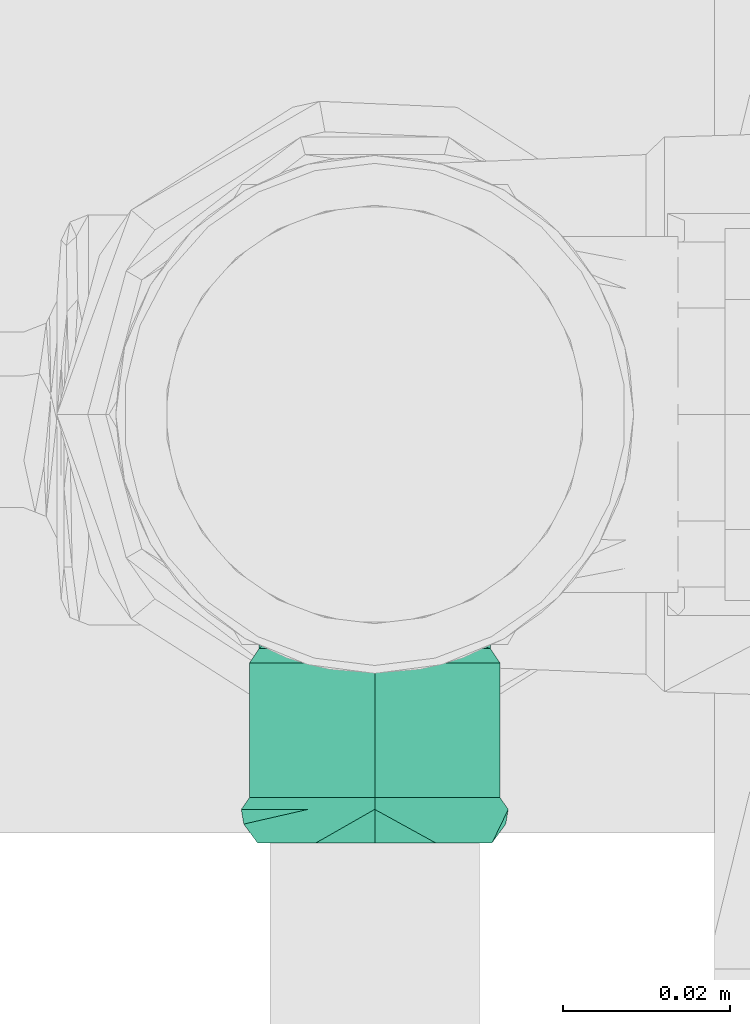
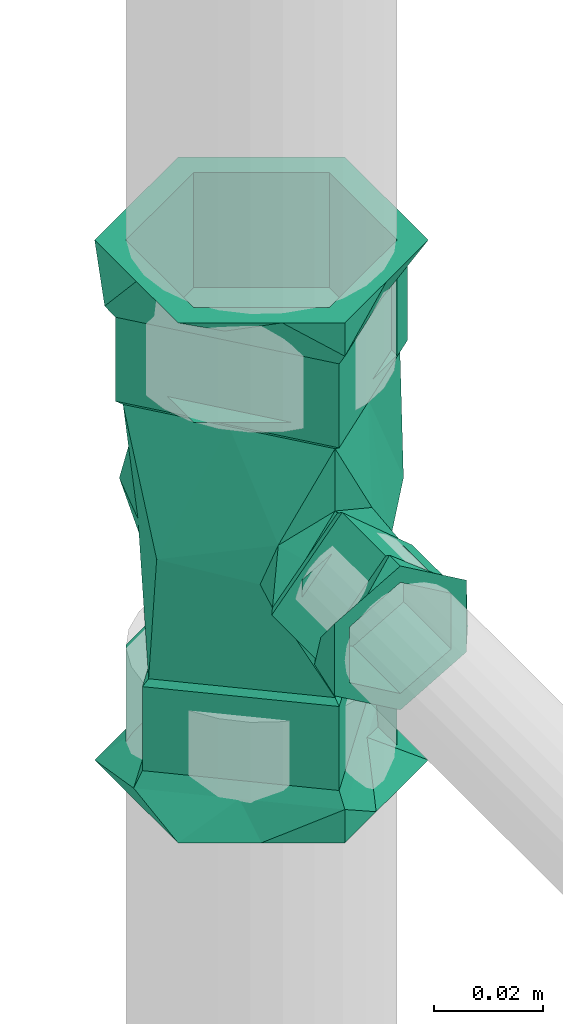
# One storey, part 81 of 589: 1 flow fitting.
"""IFC2X3 building model written with IfcOpenShell, lengths in millimetres."""

from ifc_helpers import new_model, entity, si_unit, converted_unit, derived_unit, direction, frame, origin, place, context, subcontext, project, spatial, faceted_brep, source, transform, mapped, material, type_object, type_shapes, element, save


model = new_model("IFC2X3")

# Units and contexts
model_context = context("Model", 3, precision=0.01, world=origin(), true_north=direction((6.123031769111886e-17, 1.0)))
body_context = subcontext(model_context, "Body", "Model", "MODEL_VIEW")
ifc_project = project(units=[si_unit("LENGTHUNIT", "METRE", prefix="MILLI"), si_unit("AREAUNIT", "SQUARE_METRE"), si_unit("VOLUMEUNIT", "CUBIC_METRE"), converted_unit("PLANEANGLEUNIT", "DEGREE", entity("IfcRatioMeasure", 0.017453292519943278), si_unit("PLANEANGLEUNIT", "RADIAN"), dimensions=[0, 0, 0, 0, 0, 0, 0]), si_unit("MASSUNIT", "GRAM", prefix="KILO"), derived_unit("MASSDENSITYUNIT", [(si_unit("MASSUNIT", "GRAM", prefix="KILO"), 1), (si_unit("LENGTHUNIT", "METRE"), -3)]), derived_unit("IONCONCENTRATIONUNIT", [(si_unit("MASSUNIT", "GRAM", prefix="KILO"), 1), (si_unit("LENGTHUNIT", "METRE"), -3)]), derived_unit("MOMENTOFINERTIAUNIT", [(si_unit("LENGTHUNIT", "METRE"), 4)]), si_unit("TIMEUNIT", "SECOND"), si_unit("FREQUENCYUNIT", "HERTZ"), si_unit("THERMODYNAMICTEMPERATUREUNIT", "DEGREE_CELSIUS"), derived_unit("THERMALTRANSMITTANCEUNIT", [(si_unit("MASSUNIT", "GRAM", prefix="KILO"), 1), (si_unit("THERMODYNAMICTEMPERATUREUNIT", "KELVIN"), -1), (si_unit("TIMEUNIT", "SECOND"), -3)]), derived_unit("THERMALCONDUCTANCEUNIT", [(si_unit("MASSUNIT", "GRAM", prefix="KILO"), 1), (si_unit("THERMODYNAMICTEMPERATUREUNIT", "KELVIN"), -1), (si_unit("TIMEUNIT", "SECOND"), -3), (si_unit("LENGTHUNIT", "METRE"), 1)]), derived_unit("VOLUMETRICFLOWRATEUNIT", [(si_unit("LENGTHUNIT", "METRE"), 3), (si_unit("TIMEUNIT", "SECOND"), -1)]), derived_unit("MASSFLOWRATEUNIT", [(si_unit("MASSUNIT", "GRAM", prefix="KILO"), 1), (si_unit("TIMEUNIT", "SECOND"), -1)]), derived_unit("ROTATIONALFREQUENCYUNIT", [(si_unit("TIMEUNIT", "SECOND"), -1)]), si_unit("ELECTRICCURRENTUNIT", "AMPERE"), si_unit("ELECTRICVOLTAGEUNIT", "VOLT"), si_unit("POWERUNIT", "WATT"), si_unit("FORCEUNIT", "NEWTON", prefix="KILO"), si_unit("ILLUMINANCEUNIT", "LUX"), si_unit("LUMINOUSFLUXUNIT", "LUMEN"), si_unit("LUMINOUSINTENSITYUNIT", "CANDELA"), derived_unit("USERDEFINED", [(si_unit("MASSUNIT", "GRAM", prefix="KILO"), -1), (si_unit("LENGTHUNIT", "METRE"), -2), (si_unit("TIMEUNIT", "SECOND"), 3), (si_unit("LUMINOUSFLUXUNIT", "LUMEN"), 1)]), derived_unit("USERDEFINED", [(si_unit("MASSUNIT", "GRAM", prefix="KILO"), 1), (si_unit("TIMEUNIT", "SECOND"), -3), (si_unit("LENGTHUNIT", "METRE"), 3), (si_unit("ELECTRICCURRENTUNIT", "AMPERE"), -2)]), derived_unit("SOUNDPOWERUNIT", [(si_unit("MASSUNIT", "GRAM", prefix="KILO"), 1), (si_unit("TIMEUNIT", "SECOND"), -3), (si_unit("LENGTHUNIT", "METRE"), 2)]), derived_unit("SOUNDPRESSUREUNIT", [(si_unit("MASSUNIT", "GRAM", prefix="KILO"), 1), (si_unit("LENGTHUNIT", "METRE"), -1), (si_unit("TIMEUNIT", "SECOND"), -2)]), derived_unit("LINEARVELOCITYUNIT", [(si_unit("LENGTHUNIT", "METRE"), 1), (si_unit("TIMEUNIT", "SECOND"), -1)]), si_unit("PRESSUREUNIT", "PASCAL"), derived_unit("USERDEFINED", [(si_unit("MASSUNIT", "GRAM", prefix="KILO"), 1), (si_unit("LENGTHUNIT", "METRE"), -2), (si_unit("TIMEUNIT", "SECOND"), -2)]), derived_unit("LINEARFORCEUNIT", [(si_unit("MASSUNIT", "GRAM", prefix="KILO"), 1), (si_unit("TIMEUNIT", "SECOND"), -2)]), derived_unit("PLANARFORCEUNIT", [(si_unit("MASSUNIT", "GRAM", prefix="KILO"), 1), (si_unit("LENGTHUNIT", "METRE"), -1), (si_unit("TIMEUNIT", "SECOND"), -2)]), derived_unit("SPECIFICHEATCAPACITYUNIT", [(si_unit("THERMODYNAMICTEMPERATUREUNIT", "KELVIN"), -1), (si_unit("LENGTHUNIT", "METRE"), 2), (si_unit("TIMEUNIT", "SECOND"), -2)]), derived_unit("HEATINGVALUEUNIT", [(si_unit("LENGTHUNIT", "METRE"), 2), (si_unit("TIMEUNIT", "SECOND"), -2)]), derived_unit("VAPORPERMEABILITYUNIT", [(si_unit("LENGTHUNIT", "METRE"), -1), (si_unit("TIMEUNIT", "SECOND"), 1)]), derived_unit("DYNAMICVISCOSITYUNIT", [(si_unit("MASSUNIT", "GRAM", prefix="KILO"), 1), (si_unit("TIMEUNIT", "SECOND"), -1), (si_unit("LENGTHUNIT", "METRE"), -1)]), derived_unit("THERMALEXPANSIONCOEFFICIENTUNIT", [(si_unit("THERMODYNAMICTEMPERATUREUNIT", "KELVIN"), -1)]), derived_unit("MODULUSOFELASTICITYUNIT", [(si_unit("MASSUNIT", "GRAM", prefix="KILO"), 1), (si_unit("LENGTHUNIT", "METRE"), -1), (si_unit("TIMEUNIT", "SECOND"), -2)]), derived_unit("ISOTHERMALMOISTURECAPACITYUNIT", [(si_unit("LENGTHUNIT", "METRE"), 3), (si_unit("MASSUNIT", "GRAM", prefix="KILO"), -1)]), derived_unit("MOISTUREDIFFUSIVITYUNIT", [(si_unit("TIMEUNIT", "SECOND"), -1), (si_unit("LENGTHUNIT", "METRE"), 2)])], contexts=[model_context])

# Site, building, storey
site_placement = place(None, origin())
site = spatial("IfcSite", under=ifc_project, at=site_placement, Name="Default", CompositionType="ELEMENT")
building_placement = place(site_placement, origin())
building = spatial("IfcBuilding", under=site, at=building_placement, CompositionType="ELEMENT")
storey_placement = place(building_placement, frame((0.0, 0.0, 100.0)))
storey = spatial("IfcBuildingStorey", under=building, at=storey_placement, Name="TÉRREO", CompositionType="ELEMENT", Elevation=100.0)

# Flow fitting
ifc_material = material(Name="PVC Marrom")
pipe_fitting_type = type_object("IfcPipeFittingType", Name="PVC Marrom Soldável_Tê e Tê de Reducão_Rodrigo MEP:Tê", PredefinedType="NOTDEFINED", material=ifc_material)
shared_shape = source(origin(), body_context, "Body", "Brep", [
    faceted_brep([(8.099999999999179, -51.19999999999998, -14.029611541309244), (12.500000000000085, -51.19999999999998, 0.0), (6.249999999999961, -51.199999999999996, -10.82531754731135), (12.006116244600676, -51.19999999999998, -7.26401974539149), (-6.250000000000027, -51.20000000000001, -10.825317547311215), (0.0, -51.2, -14.02961154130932), (16.20000000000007, -51.199999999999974, 0.0), (6.250000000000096, -51.199999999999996, 10.825317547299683), (12.15000000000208, -51.19999999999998, 7.014805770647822), (8.10000000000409, -51.19999999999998, 14.029611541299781), (-6.249999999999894, -51.20000000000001, 10.825317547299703), (0.0, -51.2, 14.02961154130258), (-8.09999999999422, -51.20000000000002, 14.029611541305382), (-12.00611625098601, -51.20000000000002, 7.2640197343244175), (-16.199999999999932, -51.200000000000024, 0.0), (-12.499999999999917, -51.20000000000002, 0.0), (-12.149999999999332, -51.20000000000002, -7.014805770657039), (-8.099999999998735, -51.20000000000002, -14.0296115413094), (-9.505660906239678, -47.19999999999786, 7.977099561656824), (-2.81132181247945, -47.19999999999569, 15.95419912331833), (4.194176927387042, -48.95626714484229, 15.647647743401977), (-16.199999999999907, -47.200000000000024, 0.0), (16.200000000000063, -47.199999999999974, 0.0), (6.694339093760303, -47.19999999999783, 7.977099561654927), (10.200288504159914, -47.19999999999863, 5.034925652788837), (1.941508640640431, -47.1999999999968, 11.965649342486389), (9.50766188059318, -47.19999999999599, -7.976746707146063), (2.8153237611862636, -47.19999999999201, -15.953493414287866), (-4.191233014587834, -48.95635467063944, -15.648436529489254), (-6.692338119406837, -47.199999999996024, -7.97674670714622), (-10.19988795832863, -47.199999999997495, -5.033979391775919), (-1.938507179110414, -47.199999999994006, -11.965120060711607), (-6.250000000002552, -47.2, -10.825317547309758), (-9.37499999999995, -47.20000000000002, -5.412658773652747), (-12.499999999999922, -47.20000000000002, 0.0), (-8.816048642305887, -45.80000000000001, -6.380790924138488), (-6.249999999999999, -45.80000000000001, -10.82531754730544), (-6.249999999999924, -33.7, -10.825317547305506), (-12.499999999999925, -45.80000000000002, 0.0), (-12.499999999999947, -33.70000000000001, 0.0), (0.0, -47.199999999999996, -10.82531754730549), (6.250000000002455, -47.19999999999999, -10.825317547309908), (6.249999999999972, -45.8, -10.825317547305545), (0.0, -45.800000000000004, -10.825317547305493), (6.250000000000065, -33.699999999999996, -10.825317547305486), (12.50000000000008, -47.19999999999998, 0.0), (8.816048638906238, -47.19999999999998, -6.380790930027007), (9.375000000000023, -45.8, -5.4126587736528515), (12.500000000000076, -45.799999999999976, 0.0), (12.500000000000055, -33.69999999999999, 0.0), (6.249999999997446, -47.19999999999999, 10.825317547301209), (9.37500000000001, -47.19999999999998, 5.4126587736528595), (8.81604864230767, -45.8, 6.380790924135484), (6.249999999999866, -45.8, 10.825317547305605), (6.2499999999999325, -33.699999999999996, 10.825317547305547), (0.0, -47.199999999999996, 10.82531754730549), (-6.2499999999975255, -47.2, 10.82531754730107), (-6.250000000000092, -45.80000000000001, 10.825317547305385), (0.0, -45.800000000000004, 10.825317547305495), (-6.250000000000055, -33.7, 10.825317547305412), (-8.816048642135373, -47.20000000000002, 6.380790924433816), (-9.375000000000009, -45.80000000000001, 5.412658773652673), (-9.570641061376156, -45.79999999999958, -4.724127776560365), (2.6377834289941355, -45.799999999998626, -14.96937201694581), (15.200000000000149, -45.799999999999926, 0.0), (-15.199999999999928, -45.800000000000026, 0.0), (-9.79862070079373, -45.79999999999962, -4.5328084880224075), (8.918891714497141, -45.79999999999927, -7.484686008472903), (-3.941282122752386, -45.799999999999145, -9.44825555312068), (-4.397241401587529, -45.79999999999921, -9.065616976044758), (10.739615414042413, -45.80000000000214, 3.7421774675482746), (6.279230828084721, -45.80000000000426, 7.484354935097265), (1.8188462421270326, -45.80000000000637, 11.226532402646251), (-2.641538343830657, -45.80000000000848, 14.96870987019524), (-6.443631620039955, -45.80000000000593, 10.436910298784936), (-8.920769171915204, -45.800000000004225, 7.484354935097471), (-10.245724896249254, -45.80000000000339, 5.9051107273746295), (-8.918891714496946, -29.700000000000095, 7.4846860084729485), (9.798620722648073, -29.70000000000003, 4.532808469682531), (6.281108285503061, -29.700000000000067, 7.484686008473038), (4.3972414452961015, -29.70000000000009, 9.065616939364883), (-15.199999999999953, -29.700000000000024, 0.0), (-2.637783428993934, -29.70000000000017, 14.96937201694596), (15.200000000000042, -29.699999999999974, 0.0), (8.920769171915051, -29.699999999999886, -7.484354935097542), (2.6415383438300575, -29.699999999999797, -14.968709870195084), (-6.279230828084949, -29.699999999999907, -7.484354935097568), (-8.651615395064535, -28.0, -4.521903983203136), (-5.801761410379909, -28.0, -6.91348643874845), (-3.263230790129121, -28.0, -9.043807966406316), (-14.039999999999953, -28.0, 0.0), (2.436477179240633, -28.0, -13.826972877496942), (8.238238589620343, -28.0, -6.913486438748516), (14.040000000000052, -28.0, 0.0), (5.800025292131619, -28.0, 6.913180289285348), (-2.439949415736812, -28.0, 13.826360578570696), (-9.297801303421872, -28.0, 5.652333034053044), (-8.239974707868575, -28.0, 6.913180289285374), (-13.993250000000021, -27.149999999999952, 0.0), (-8.698026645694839, -24.90789224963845, -10.803675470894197), (0.0, -23.389258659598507, -13.786409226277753), (13.993249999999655, -27.149999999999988, 0.0), (10.886120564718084, -25.729354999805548, -8.667340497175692), (8.698026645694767, -24.907892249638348, 10.803675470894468), (0.0, -23.389258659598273, 13.786409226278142), (-10.886120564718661, -25.729354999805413, 8.667340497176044), (-32.59999999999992, -25.0, 0.0), (-32.59999999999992, -19.790106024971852, 9.023801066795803), (-32.59999999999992, -12.500000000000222, 21.650635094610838), (-32.59999999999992, 0.0, 21.65063509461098), (-32.59999999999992, 12.499999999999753, 21.65063509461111), (-32.59999999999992, 18.749999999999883, 10.825317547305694), (-32.59999999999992, 25.0, 0.0), (-32.59999999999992, 19.790105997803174, -9.023801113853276), (-32.59999999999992, 12.500000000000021, -21.65063509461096), (-32.59999999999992, 0.0, -21.65063509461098), (-32.59999999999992, -12.49999999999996, -21.650635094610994), (-32.59999999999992, -18.749999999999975, -10.825317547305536), (-48.0, -12.500000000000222, 21.650635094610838), (-48.0, -18.750000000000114, 10.825317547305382), (-58.50000000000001, -18.75000000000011, 10.82531754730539), (-58.50000000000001, -12.500000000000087, 21.650635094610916), (-48.0, -19.790106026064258, 9.02380106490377), (-48.0, -25.0, 0.0), (-58.50000000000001, -25.0, 0.0), (32.60000000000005, -25.0, 0.0), (32.60000000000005, -18.74999999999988, 10.825317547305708), (32.60000000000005, -12.499999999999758, 21.65063509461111), (58.5, -12.499999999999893, 21.650635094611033), (58.500000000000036, -19.97114481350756, 8.71023268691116), (58.5, -25.0, 0.0), (-48.0, 0.0, 21.650635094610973), (-48.0, 12.499999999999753, 21.65063509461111), (-58.50000000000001, 0.0, 21.650635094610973), (-58.50000000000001, 12.499999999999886, 21.650635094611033), (32.60000000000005, 0.0, 21.650635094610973), (32.60000000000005, 12.500000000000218, 21.650635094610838), (58.5, 12.500000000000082, 21.650635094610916), (58.5, 0.0, 21.650635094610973), (-48.0, 19.790106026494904, 9.023801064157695), (-48.0, 25.0, 0.0), (-48.0, 18.749999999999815, 10.825317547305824), (-58.49999999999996, 19.79010602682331, 9.023801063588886), (-58.50000000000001, 25.0, 0.0), (32.60000000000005, 19.97114481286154, 8.71023268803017), (32.60000000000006, 25.0, 0.0), (58.5, 25.0, 0.0), (58.5, 18.75000000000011, 10.825317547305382), (-48.0, 12.49999999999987, -21.650635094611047), (-48.0, 18.749999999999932, -10.825317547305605), (-58.50000000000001, 18.749999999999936, -10.825317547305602), (-58.50000000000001, 12.499999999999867, -21.650635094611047), (-48.0, 19.790106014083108, -9.023801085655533), (32.60000000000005, 18.749999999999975, -10.82531754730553), (32.60000000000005, 12.499999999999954, -21.650635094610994), (58.5, 12.5000000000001, -21.650635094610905), (58.500000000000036, 19.97114481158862, -8.710232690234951), (-48.0, 0.0, -21.65063509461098), (-48.0, -12.50000000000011, -21.650635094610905), (-58.50000000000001, 0.0, -21.65063509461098), (-58.50000000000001, -12.500000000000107, -21.650635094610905), (32.60000000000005, 0.0, -21.65063509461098), (32.60000000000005, -12.500000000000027, -21.65063509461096), (58.5, -12.499999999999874, -21.650635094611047), (58.5, 0.0, -21.65063509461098), (-48.0, -19.790106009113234, -9.02380109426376), (-48.0, -18.75000000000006, -10.825317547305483), (-58.49999999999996, -19.79010602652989, -9.023801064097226), (32.60000000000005, -19.971144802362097, -8.710232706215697), (58.5, -18.749999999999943, -10.825317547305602), (-28.0, 15.934137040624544, -13.368436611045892), (0.0, 27.15, 0.0), (0.0, 19.249777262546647, -19.145980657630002), (0.0, 6.194218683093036, -22.707339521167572), (-28.0, 20.511742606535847, -7.912286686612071), (-28.0, 27.15, 0.0), (0.0, -6.861339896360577, -26.268698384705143), (-28.0, 4.718274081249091, -26.73687322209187), (-28.0, -27.15, 0.0), (-28.0, -19.18293147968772, -6.684218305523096), (-28.0, -11.215862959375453, -13.368436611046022), (-28.0, -3.2487944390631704, -20.052654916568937), (-28.0, 10.326205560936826, -20.052654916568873), (-28.0, -15.930783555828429, 13.369027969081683), (0.0, -6.86133989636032, 26.268698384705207), (-28.0, -4.711567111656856, 26.738055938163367), (-28.0, -10.32117533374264, 20.053541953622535), (0.0, 19.24977726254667, 19.145980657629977), (-28.0, 19.60719441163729, 6.329881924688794), (-28.0, 11.219216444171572, 13.369027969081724), (0.0, 6.194218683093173, 22.707339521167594), (-28.0, 3.2538246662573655, 20.05354195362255), (-28.0, -20.510950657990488, 7.911215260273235), (-29.099999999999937, 16.81093734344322, -14.107648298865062), (-29.099999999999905, 10.891406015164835, -21.16147244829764), (-29.099999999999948, -12.730929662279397, -13.359198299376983), (-29.099999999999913, -3.8795274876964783, -20.787247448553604), (-29.099999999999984, -20.690464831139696, -6.679599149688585), (-29.099999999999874, 4.97187468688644, -28.215296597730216), (-29.1, 28.650000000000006, 0.0), (-29.099999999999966, 22.730468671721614, -7.053824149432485), (-29.09999999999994, -11.83906265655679, -14.107648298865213), (-29.100000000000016, -28.649999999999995, 0.0), (-29.100000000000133, -9.809464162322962, 22.456453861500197), (-29.100000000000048, -21.64498805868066, 8.349429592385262), (-29.10000000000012, 3.4282858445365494, 21.160536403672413), (-29.10000000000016, -4.978952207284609, 28.21404853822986), (-29.100000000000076, 11.835523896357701, 14.107024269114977), (-29.10000000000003, 20.242761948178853, 7.053512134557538), (-29.100000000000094, -14.639976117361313, 16.698859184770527), (-29.10000000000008, -16.814476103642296, 14.107024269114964), (-48.0, -4.978952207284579, 28.214048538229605), (-48.0, 28.650000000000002, 0.0), (-48.0, 12.939627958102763, 13.18070205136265), (-48.0, 11.835523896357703, 14.107024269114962), (-48.0, -16.81447610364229, 14.107024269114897), (-48.0, -28.650000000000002, 0.0), (-48.0, 4.971874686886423, -28.215296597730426), (-48.0, -12.94067667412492, -13.183179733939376), (-48.0, -11.839062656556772, -14.107648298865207), (-48.0, 16.81093734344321, -14.107648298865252), (-51.0, 16.175349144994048, -17.370576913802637), (-51.0, 18.04585747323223, -15.141239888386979), (-51.0, 30.75, 0.0), (-51.0, -12.704142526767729, -15.141239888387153), (-51.0, 5.341714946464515, -30.282479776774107), (-51.0, -30.74999999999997, 0.0), (-51.0, -5.3380546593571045, 30.283125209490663), (-51.0, -18.044027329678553, 15.141562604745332), (-51.0, 4.425812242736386, 22.08982117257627), (-51.0, 14.189679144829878, 13.896517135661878), (-51.0, 12.705972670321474, 15.141562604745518), (-58.50000000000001, -15.375000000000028, -26.63028116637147), (-58.500000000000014, -24.971948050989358, -10.007879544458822), (-58.50000000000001, 0.0, -26.6302811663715), (-58.50000000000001, -30.75, 0.0), (-58.50000000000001, -23.06249999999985, 13.315140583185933), (-58.50000000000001, -15.374999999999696, 26.630281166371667), (-58.50000000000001, 0.0, 26.6302811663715), (-58.50000000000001, 15.375000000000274, 26.63028116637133), (-58.500000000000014, 24.97194806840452, 10.007879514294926), (-58.50000000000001, 30.75, 0.0), (-58.50000000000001, 23.062499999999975, -13.315140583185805), (-58.50000000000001, 15.374999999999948, -26.630281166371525), (51.0, 30.749999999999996, 0.0), (58.5, 23.06249999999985, 13.315140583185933), (58.5, 30.75, 0.0), (51.0, -30.749999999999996, 0.0), (58.5, -30.75, 0.0), (58.5, -24.97194806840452, 10.007879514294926), (58.5, -23.062499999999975, -13.315140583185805), (58.5, 24.971948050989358, -10.007879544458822), (28.0, -15.934137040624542, -13.36843661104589), (28.0, -27.15, 0.0), (28.0, -4.718274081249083, -26.736873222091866), (28.0, -10.326205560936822, -20.05265491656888), (28.0, 27.15, 0.0), (28.0, 19.182931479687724, -6.6842183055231), (28.0, 11.215862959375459, -13.368436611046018), (28.0, 3.248794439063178, -20.052654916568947), (28.0, -20.511742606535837, -7.912286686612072), (28.0, 15.930783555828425, 13.369027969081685), (28.0, 20.51095065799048, 7.9112152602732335), (28.0, 4.711567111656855, 26.73805593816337), (28.0, -19.607194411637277, 6.329881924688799), (28.0, -11.21921644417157, 13.36902796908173), (28.0, -3.2538246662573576, 20.05354195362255), (28.0, 10.321175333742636, 20.053541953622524), (29.099999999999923, -16.81093734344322, -14.107648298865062), (29.09999999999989, -10.891406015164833, -21.16147244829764), (29.099999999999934, 12.730929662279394, -13.359198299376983), (29.09999999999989, 3.879527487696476, -20.787247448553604), (29.099999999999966, 20.690464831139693, -6.679599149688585), (29.099999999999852, -4.971874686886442, -28.215296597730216), (29.1, -28.650000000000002, 0.0), (29.099999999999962, -22.73046867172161, -7.053824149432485), (29.099999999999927, 11.83906265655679, -14.107648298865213), (29.1, 28.64999999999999, 0.0), (29.10000000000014, 9.809464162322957, 22.45645386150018), (29.10000000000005, 21.644988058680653, 8.349429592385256), (29.100000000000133, -3.4282858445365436, 21.160536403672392), (29.100000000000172, 4.978952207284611, 28.214048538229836), (29.100000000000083, -11.83552389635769, 14.107024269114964), (29.100000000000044, -20.242761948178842, 7.053512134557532), (29.1000000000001, 14.639976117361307, 16.69885918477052), (29.10000000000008, 16.814476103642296, 14.107024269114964), (48.0, 4.978952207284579, 28.214048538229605), (48.0, -28.650000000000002, 0.0), (48.0, -12.939627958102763, 13.18070205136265), (48.0, -11.835523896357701, 14.107024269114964), (48.0, 16.81447610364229, 14.107024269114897), (48.0, 28.650000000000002, 0.0), (48.0, -4.971874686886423, -28.215296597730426), (48.0, 12.94067667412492, -13.183179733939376), (48.0, 11.83906265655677, -14.107648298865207), (48.0, -16.81093734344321, -14.107648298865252), (51.0, -16.174511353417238, -17.369443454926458), (51.0, -18.044027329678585, -15.141562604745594), (51.0, 12.70597267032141, -15.141562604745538), (51.0, -5.33805465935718, -30.283125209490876), (51.0, 5.341714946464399, 30.28247977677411), (51.0, 18.045857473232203, 15.141239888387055), (51.0, -4.423715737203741, 22.088869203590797), (51.0, -14.189146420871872, 13.895258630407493), (51.0, -12.70414252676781, 15.141239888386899), (58.5, 15.375000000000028, -26.63028116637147), (58.5, 0.0, -26.6302811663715), (58.5, 15.374999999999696, 26.630281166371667), (58.5, 0.0, 26.6302811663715), (58.5, -15.375000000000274, 26.63028116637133), (58.5, -15.374999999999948, -26.630281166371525)], [[[0, 1, 2]], [[1, 0, 3]], [[0, 2, 4]], [[4, 5, 0]], [[1, 3, 6]], [[7, 1, 6]], [[7, 6, 8]], [[7, 8, 9]], [[7, 9, 10]], [[10, 9, 11]], [[10, 11, 12]], [[10, 12, 13]], [[10, 13, 14]], [[14, 15, 10]], [[15, 14, 16]], [[15, 16, 17]], [[17, 4, 15]], [[4, 17, 5]], [[18, 12, 19]], [[12, 20, 19]], [[18, 21, 13]], [[21, 14, 13]], [[22, 8, 6]], [[20, 8, 23]], [[8, 22, 24, 23]], [[20, 23, 25, 19]], [[20, 12, 11, 9]], [[8, 20, 9]], [[12, 18, 13]], [[26, 0, 27]], [[0, 28, 27]], [[26, 22, 3]], [[22, 6, 3]], [[21, 16, 14]], [[28, 16, 29]], [[16, 21, 30, 29]], [[28, 29, 31, 27]], [[28, 0, 5, 17]], [[16, 28, 17]], [[0, 26, 3]], [[4, 32, 33]], [[4, 33, 34]], [[34, 15, 4]], [[33, 32, 35]], [[36, 35, 32]], [[37, 35, 36]], [[37, 38, 35]], [[38, 37, 39]], [[38, 34, 33]], [[33, 35, 38]], [[4, 2, 32]], [[2, 40, 32]], [[2, 41, 40]], [[42, 40, 41]], [[43, 40, 42]], [[44, 43, 42]], [[44, 36, 43]], [[44, 37, 36]], [[43, 36, 32]], [[32, 40, 43]], [[1, 45, 46]], [[1, 46, 41]], [[41, 2, 1]], [[47, 46, 45]], [[45, 48, 47]], [[49, 47, 48]], [[49, 42, 47]], [[42, 49, 44]], [[41, 46, 42]], [[47, 42, 46]], [[7, 50, 51]], [[7, 51, 45]], [[45, 1, 7]], [[51, 50, 52]], [[53, 52, 50]], [[54, 52, 53]], [[54, 48, 52]], [[48, 54, 49]], [[48, 45, 51]], [[51, 52, 48]], [[7, 10, 50]], [[10, 55, 50]], [[10, 56, 55]], [[57, 55, 56]], [[58, 55, 57]], [[59, 58, 57]], [[59, 53, 58]], [[59, 54, 53]], [[58, 53, 50]], [[50, 55, 58]], [[15, 34, 60]], [[15, 60, 56]], [[56, 10, 15]], [[61, 60, 34]], [[34, 38, 61]], [[39, 61, 38]], [[39, 57, 61]], [[57, 39, 59]], [[56, 60, 57]], [[61, 57, 60]], [[30, 62, 29]], [[31, 63, 27]], [[22, 26, 64]], [[30, 65, 66, 62]], [[27, 63, 67]], [[67, 26, 27]], [[21, 65, 30]], [[63, 31, 68]], [[64, 26, 67]], [[29, 62, 69, 68]], [[31, 29, 68]], [[22, 64, 70]], [[25, 71, 72]], [[72, 19, 25]], [[71, 25, 23, 24]], [[19, 73, 74]], [[18, 74, 75, 76]], [[24, 70, 71]], [[76, 21, 18]], [[76, 65, 21]], [[22, 70, 24]], [[72, 73, 19]], [[19, 74, 18]], [[77, 75, 74, 73]], [[71, 78, 79, 80]], [[81, 65, 76, 75]], [[78, 71, 70, 64]], [[80, 82, 73]], [[81, 75, 77]], [[73, 82, 77]], [[78, 64, 83]], [[80, 73, 72, 71]], [[64, 84, 83]], [[84, 64, 67]], [[85, 63, 68, 69]], [[66, 65, 81]], [[85, 69, 86]], [[86, 69, 62, 66]], [[63, 85, 67]], [[81, 86, 66]], [[67, 85, 84]], [[81, 87, 86]], [[86, 87, 88, 89]], [[87, 81, 90]], [[85, 89, 91]], [[85, 91, 92]], [[92, 84, 85]], [[93, 84, 92]], [[89, 85, 86]], [[83, 84, 93]], [[93, 79, 78, 83]], [[94, 82, 80, 79]], [[82, 94, 95]], [[95, 77, 82]], [[96, 90, 81]], [[77, 95, 97, 96]], [[96, 81, 77]], [[93, 94, 79]], [[98, 88, 87, 90]], [[98, 99, 88]], [[99, 100, 91]], [[101, 93, 92]], [[99, 91, 89, 88]], [[101, 92, 102]], [[92, 91, 102]], [[102, 91, 100]], [[101, 94, 93]], [[101, 103, 94]], [[103, 104, 95]], [[98, 90, 96, 97]], [[103, 95, 94]], [[98, 97, 105]], [[97, 95, 105]], [[105, 95, 104]], [[39, 37, 44, 49, 54, 59]], [[106, 107, 108, 109, 110, 111, 112, 113, 114, 115, 116, 117]], [[118, 108, 119]], [[120, 118, 119]], [[121, 118, 120]], [[107, 119, 108]], [[107, 122, 119]], [[107, 123, 122]], [[107, 106, 123]], [[122, 123, 124]], [[124, 120, 122]], [[120, 119, 122]], [[125, 126, 127, 128, 129, 130]], [[110, 109, 131]], [[131, 132, 110]], [[131, 109, 118]], [[118, 109, 108]], [[121, 131, 118]], [[133, 131, 121]], [[132, 131, 133]], [[133, 134, 132]], [[127, 135, 136, 137, 138, 128]], [[112, 111, 139]], [[139, 140, 112]], [[111, 141, 139]], [[111, 132, 141]], [[110, 132, 111]], [[132, 134, 141]], [[142, 141, 134]], [[142, 140, 139]], [[142, 143, 140]], [[142, 139, 141]], [[137, 136, 144, 145, 146, 147]], [[148, 114, 149]], [[150, 148, 149]], [[151, 148, 150]], [[113, 149, 114]], [[113, 152, 149]], [[113, 140, 152]], [[113, 112, 140]], [[152, 140, 143]], [[143, 150, 152]], [[150, 149, 152]], [[145, 153, 154, 155, 156, 146]], [[116, 115, 157]], [[157, 158, 116]], [[157, 115, 148]], [[148, 115, 114]], [[151, 157, 148]], [[159, 157, 151]], [[158, 157, 159]], [[159, 160, 158]], [[154, 161, 162, 163, 164, 155]], [[106, 117, 165]], [[165, 123, 106]], [[117, 166, 165]], [[117, 158, 166]], [[116, 158, 117]], [[158, 160, 166]], [[167, 166, 160]], [[167, 123, 165]], [[167, 124, 123]], [[167, 165, 166]], [[163, 162, 168, 125, 130, 169]], [[170, 171, 172]], [[170, 172, 173]], [[171, 170, 174, 175]], [[176, 177, 173]], [[176, 100, 99]], [[99, 178, 179, 180]], [[99, 98, 178]], [[176, 180, 181, 177]], [[173, 177, 182, 170]], [[180, 176, 99]], [[183, 105, 104]], [[178, 98, 105]], [[184, 185, 186, 183]], [[187, 171, 175]], [[187, 175, 188, 189]], [[190, 187, 189]], [[190, 189, 191, 185]], [[105, 183, 192, 178]], [[185, 184, 190]], [[104, 184, 183]], [[170, 182, 193, 174]], [[177, 194, 182]], [[180, 179, 195]], [[181, 180, 196]], [[178, 197, 179]], [[198, 177, 181]], [[199, 175, 200]], [[194, 177, 198]], [[180, 195, 201, 196]], [[198, 181, 196]], [[175, 174, 200]], [[174, 193, 200]], [[197, 178, 202]], [[197, 195, 179]], [[194, 193, 182]], [[185, 203, 186]], [[202, 178, 204]], [[185, 205, 206]], [[207, 189, 208]], [[209, 183, 186]], [[175, 199, 188]], [[191, 207, 205]], [[183, 209, 210, 204]], [[188, 208, 189]], [[207, 191, 189]], [[185, 191, 205]], [[178, 192, 183, 204]], [[188, 199, 208]], [[203, 185, 206]], [[203, 209, 186]], [[211, 206, 205, 207, 208, 199, 212, 213, 214]], [[215, 216, 202, 204, 210, 209, 203, 206, 211]], [[217, 198, 196, 201, 195, 197, 202, 216, 218, 219]], [[220, 212, 199, 200, 193, 194, 198, 217]], [[217, 221, 220]], [[220, 221, 222, 223]], [[217, 224, 225]], [[226, 219, 218, 216]], [[223, 212, 220]], [[221, 217, 225]], [[224, 217, 219]], [[226, 224, 219]], [[211, 227, 228]], [[229, 227, 211]], [[229, 211, 214]], [[228, 215, 211]], [[212, 223, 230]], [[226, 215, 228]], [[214, 230, 231, 229]], [[216, 215, 226]], [[230, 214, 213, 212]], [[232, 124, 167]], [[124, 232, 233]], [[232, 167, 160]], [[232, 160, 159]], [[232, 159, 151]], [[151, 234, 232]], [[124, 233, 235]], [[235, 120, 124]], [[235, 121, 120]], [[121, 235, 236]], [[121, 236, 237]], [[237, 133, 121]], [[237, 134, 133]], [[134, 237, 238]], [[134, 238, 239]], [[134, 239, 240]], [[134, 240, 241]], [[241, 142, 134]], [[241, 143, 142]], [[143, 241, 242]], [[143, 242, 243]], [[243, 151, 150]], [[151, 243, 234]], [[243, 150, 143]], [[231, 240, 239]], [[240, 231, 230, 223]], [[223, 241, 240]], [[244, 245, 246]], [[226, 236, 235]], [[247, 248, 249]], [[227, 237, 228]], [[228, 237, 236]], [[226, 228, 236]], [[227, 239, 238, 237]], [[239, 227, 229, 231]], [[224, 233, 232]], [[224, 226, 233]], [[226, 235, 233]], [[247, 250, 248]], [[223, 242, 241]], [[244, 246, 251]], [[243, 222, 221, 225]], [[222, 243, 242]], [[223, 222, 242]], [[224, 234, 225]], [[225, 234, 243]], [[224, 232, 234]], [[252, 102, 100]], [[253, 101, 102]], [[176, 254, 255, 252]], [[172, 171, 256]], [[172, 256, 257, 258]], [[173, 172, 258]], [[173, 258, 259, 254]], [[102, 252, 260, 253]], [[254, 176, 173]], [[100, 176, 252]], [[261, 171, 187]], [[261, 187, 190]], [[171, 261, 262, 256]], [[184, 263, 190]], [[184, 104, 103]], [[103, 253, 264, 265]], [[103, 101, 253]], [[184, 265, 266, 263]], [[190, 263, 267, 261]], [[265, 184, 103]], [[252, 255, 268, 260]], [[254, 269, 255]], [[258, 257, 270]], [[259, 258, 271]], [[256, 272, 257]], [[273, 254, 259]], [[274, 253, 275]], [[269, 254, 273]], [[258, 270, 276, 271]], [[273, 259, 271]], [[253, 260, 275]], [[260, 268, 275]], [[272, 256, 277]], [[272, 270, 257]], [[269, 268, 255]], [[263, 278, 267]], [[277, 256, 279]], [[263, 280, 281]], [[282, 265, 283]], [[284, 261, 267]], [[253, 274, 264]], [[266, 282, 280]], [[261, 284, 285, 279]], [[264, 283, 265]], [[282, 266, 265]], [[263, 266, 280]], [[256, 262, 261, 279]], [[264, 274, 283]], [[278, 263, 281]], [[278, 284, 267]], [[286, 281, 280, 282, 283, 274, 287, 288, 289]], [[290, 291, 277, 279, 285, 284, 278, 281, 286]], [[292, 273, 271, 276, 270, 272, 277, 291, 293, 294]], [[295, 287, 274, 275, 268, 269, 273, 292]], [[292, 296, 295]], [[295, 296, 297, 247]], [[292, 298, 299]], [[244, 294, 293, 291]], [[247, 287, 295]], [[296, 292, 299]], [[298, 292, 294]], [[244, 298, 294]], [[286, 300, 301]], [[302, 300, 286]], [[302, 286, 289]], [[301, 290, 286]], [[287, 247, 303]], [[244, 290, 301]], [[289, 303, 304, 302]], [[291, 290, 244]], [[303, 289, 288, 287]], [[305, 146, 156]], [[146, 305, 251]], [[305, 156, 155]], [[305, 155, 164]], [[305, 164, 163]], [[163, 306, 305]], [[146, 251, 246]], [[246, 147, 146]], [[246, 137, 147]], [[137, 246, 245]], [[137, 245, 307]], [[307, 138, 137]], [[307, 128, 138]], [[128, 307, 308]], [[128, 308, 309]], [[128, 309, 249]], [[128, 249, 248]], [[248, 129, 128]], [[248, 130, 129]], [[130, 248, 250]], [[130, 250, 310]], [[310, 163, 169]], [[163, 310, 306]], [[310, 169, 130]], [[304, 249, 309]], [[249, 304, 303, 247]], [[300, 307, 301]], [[301, 307, 245]], [[244, 301, 245]], [[308, 300, 302, 304]], [[300, 308, 307]], [[304, 309, 308]], [[298, 251, 305]], [[298, 244, 251]], [[310, 297, 296, 299]], [[297, 310, 250]], [[247, 297, 250]], [[299, 305, 306, 310]], [[299, 298, 305]], [[145, 144, 136, 135, 127, 126, 125, 168, 162, 161, 154, 153]]]),
])
type_shapes(pipe_fitting_type, [shared_shape])
flow_fitting_placement = place(storey_placement, frame((-7562.7149723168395, -528.9241377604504, 1200.0), z_axis=(1.0, 0.0, 0.0), x_axis=(0.0, 0.0, -1.0)))
element("IfcFlowFitting", 1, at=flow_fitting_placement, inside=storey, type_object=pipe_fitting_type, material=ifc_material, Name="PVC Marrom Soldável_Tê e Tê de Reducão_Rodrigo MEP:Tê", ObjectType="PVC Marrom Soldável_Tê e Tê de Reducão_Rodrigo MEP:Tê", context=body_context, shape_type="MappedRepresentation", body=[
    mapped(shared_shape, transform((0.0, 0.0, 0.0), scale=1.0)),
])

save(model, "model.ifc")
